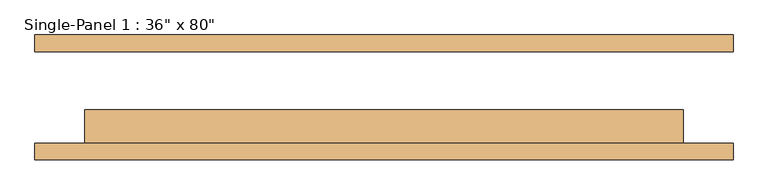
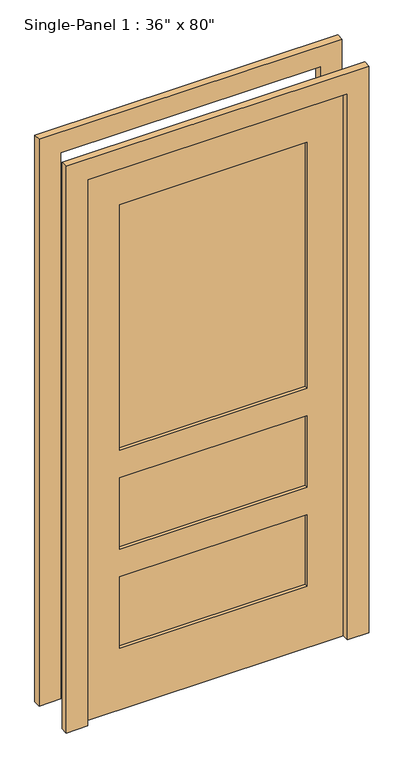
"""IFC4 building model written with IfcOpenShell, lengths in millimetres: door geometry."""

from ifc_helpers import new_model, si_unit, frame, origin, place, context, project, spatial, polyline, outline, extrude, source, transform, mapped, element, save


def door_c7a96677(model_context):
    return source(origin(), model_context, "Body", "SweptSolid", [
        extrude(outline(polyline([(0.0, -533.4), (0.0, -457.2), (2032.0, -457.2), (2032.0, 457.2), (0.0, 457.2), (0.0, 533.4), (2108.2, 533.4), (2108.2, -533.4), (0.0, -533.4)])), frame((0.0, 70.0, 0.0), z_axis=(0.0, 1.0, 0.0), x_axis=(0.0, 0.0, 1.0)), (0.0, 0.0, 1.0), 25.4),
        extrude(outline(polyline([(0.0, 533.4), (2108.2, 533.4), (2108.2, -533.4), (0.0, -533.4), (0.0, -457.2), (2032.0, -457.2), (2032.0, 457.2), (0.0, 457.2), (0.0, 533.4)])), frame((0.0, -95.4, 0.0), z_axis=(0.0, 1.0, 0.0), x_axis=(0.0, 0.0, 1.0)), (0.0, 0.0, 1.0), 25.4),
        extrude(outline(polyline([(330.2, -31.9), (330.2, -57.3), (-330.2, -57.3), (-330.2, -31.9), (330.2, -31.9)])), frame((0.0, 0.0, 965.2), z_axis=(0.0, 0.0, 1.0), x_axis=(1.0, 0.0, 0.0)), (0.0, 0.0, 1.0), 914.4),
        extrude(outline(polyline([(330.2, -31.9), (330.2, -57.3), (-330.2, -57.3), (-330.2, -31.9), (330.2, -31.9)])), frame((0.0, 0.0, 596.9), z_axis=(0.0, 0.0, 1.0), x_axis=(1.0, 0.0, 0.0)), (0.0, 0.0, 1.0), 266.7),
        extrude(outline(polyline([(330.2, -31.9), (330.2, -57.3), (-330.2, -57.3), (-330.2, -31.9), (330.2, -31.9)])), frame((0.0, 0.0, 228.6), z_axis=(0.0, 0.0, 1.0), x_axis=(1.0, 0.0, 0.0)), (0.0, 0.0, 1.0), 266.7),
        extrude(outline(polyline([(2032.0, 457.2), (2032.0, -457.2), (0.0, -457.2), (0.0, 457.2), (2032.0, 457.2)]), holes=[polyline([(965.2, 330.2), (965.2, -330.2), (1879.6, -330.2), (1879.6, 330.2), (965.2, 330.2)]), polyline([(596.9, 330.2), (596.9, -330.2), (863.6, -330.2), (863.6, 330.2), (596.9, 330.2)]), polyline([(495.3, 330.2), (228.6, 330.2), (228.6, -330.2), (495.3, -330.2), (495.3, 330.2)])]), frame((0.0, -70.0, 0.0), z_axis=(0.0, 1.0, 0.0), x_axis=(0.0, 0.0, 1.0)), (0.0, 0.0, 1.0), 50.8),
    ])


if __name__ == "__main__":
    model = new_model("IFC4")
    model_context = context("Model", 3, world=origin())
    ifc_project = project(units=[si_unit("LENGTHUNIT", "METRE", prefix="MILLI")], contexts=[model_context])
    site = spatial("IfcSite", under=ifc_project)
    building = spatial("IfcBuilding", under=site)
    placement = place(None, origin())
    door_shape = door_c7a96677(model_context)
    element("IfcDoor", 1, ObjectType="Single-Panel 1 : 36\" x 80\"", at=placement, inside=building, context=model_context, shape_type="MappedRepresentation", body=[
        mapped(door_shape, transform((0.0, 0.0, 0.0), x_axis=(1.0, 0.0, 0.0), y_axis=(0.0, 1.0, 0.0), z_axis=(0.0, 0.0, 1.0))),
    ])
    save(model, "model.ifc")
